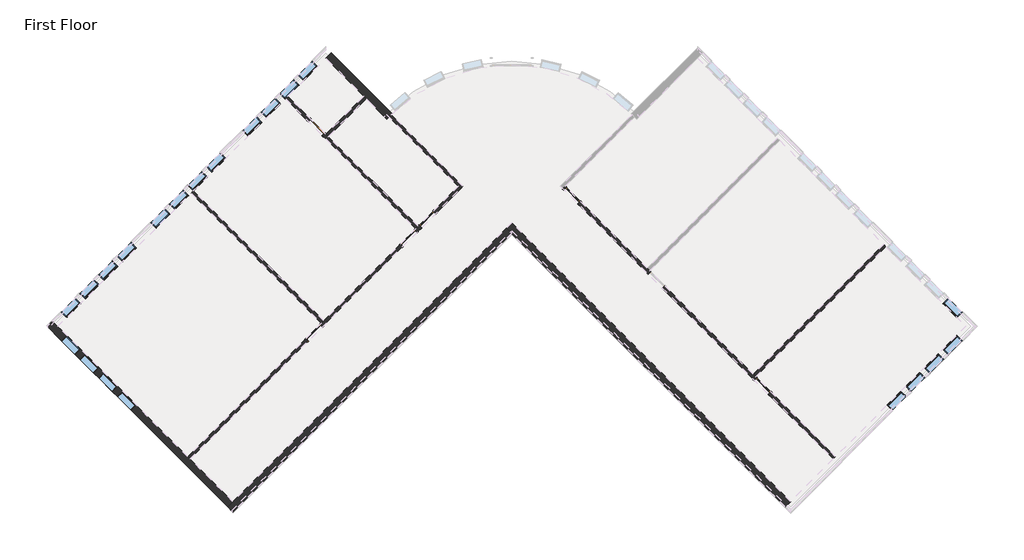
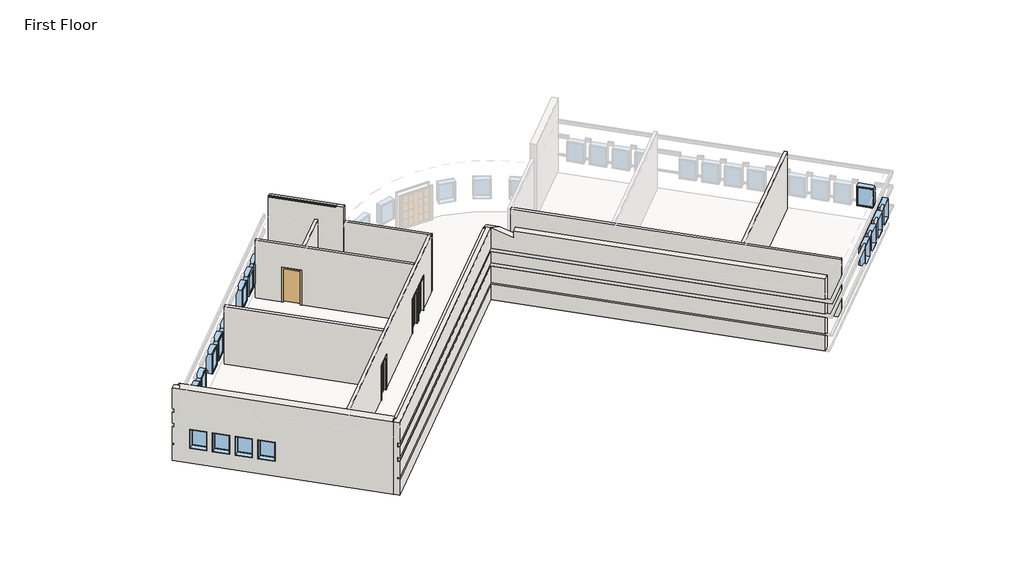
# One storey, part 1 of 3: 21 windows, 11 walls, 6 doors.
"""IFC4 building model written with IfcOpenShell, lengths in millimetres."""

from ifc_helpers import new_model, si_unit, frame, origin, origin_with_axes, place, context, project, spatial, polyline, circle_curve, ellipse_curve, outline, extrude, faceted_brep, transform, mapped, element, save
from ifc_brep_helpers import plane_surface, cylinder_surface, revolved_surface, advanced_brep
from components import door_f9494b7c, door_b81abb0e, door_5f5b55da, window_15c49d37, window_0e2fc6ce

model = new_model("IFC4")

# Units and contexts
model_context = context("Model", 3, world=origin())
ifc_project = project(units=[si_unit("LENGTHUNIT", "METRE", prefix="MILLI")], contexts=[model_context])

# Site, building, storey
site = spatial("IfcSite", under=ifc_project)
building = spatial("IfcBuilding", under=site)
storey = spatial("IfcBuildingStorey", under=building, Name="First Floor", Elevation=0.0)

# Doors
placement = place(None, origin())
door_shape = door_f9494b7c(model_context)
element("IfcDoor", 1, ObjectType="Single-Flush : 36\" x 84\"", at=placement, inside=storey, context=model_context, shape_type="MappedRepresentation", body=[
    mapped(door_shape, transform((-11920.1265343, 7875.9588464, 0.0), x_axis=(0.7071067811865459, -0.7071067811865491, 0.0), y_axis=(0.7071067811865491, 0.7071067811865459, 0.0), z_axis=(0.0, 0.0, 1.0))),
])
door_2_shape = door_b81abb0e(model_context)
element("IfcDoor", 2, ObjectType="Single-Glass 1 : 36\" x 84\"", at=placement, inside=storey, context=model_context, shape_type="MappedRepresentation", body=[
    mapped(door_2_shape, transform((-12027.7718255, -1647.4849877, 0.0), x_axis=(0.7071067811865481, 0.7071067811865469, 0.0), y_axis=(-0.7071067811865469, 0.7071067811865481, 0.0), z_axis=(0.0, 0.0, 1.0))),
])
element("IfcDoor", 3, ObjectType="Single-Glass 1 : 36\" x 84\"", at=placement, inside=storey, context=model_context, shape_type="MappedRepresentation", body=[
    mapped(door_2_shape, transform((-7643.2795567, 2737.0072811, 0.0), x_axis=(0.7071067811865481, 0.7071067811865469, 0.0), y_axis=(-0.7071067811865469, 0.7071067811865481, 0.0), z_axis=(0.0, 0.0, 1.0))),
])
door_3_shape = door_5f5b55da(model_context)
element("IfcDoor", 4, ObjectType="Single-Glass 1 : 36\" x 84\"", at=placement, inside=storey, context=model_context, shape_type="MappedRepresentation", body=[
    mapped(door_3_shape, transform((-6781.1749691, 3599.1118687, 0.0), x_axis=(-0.7071067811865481, -0.7071067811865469, 0.0), y_axis=(0.7071067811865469, -0.7071067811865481, 0.0), z_axis=(0.0, 0.0, 1.0))),
])
element("IfcDoor", 5, ObjectType="Single-Glass 1 : 36\" x 84\"", at=placement, inside=storey, context=model_context, shape_type="MappedRepresentation", body=[
    mapped(door_3_shape, transform((-66.4240191, 4710.6541283, 0.0), x_axis=(-0.7071067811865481, 0.7071067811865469, 0.0), y_axis=(-0.7071067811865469, -0.7071067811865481, 0.0), z_axis=(0.0, 0.0, 1.0))),
])
element("IfcDoor", 6, ObjectType="Single-Glass 1 : 36\" x 84\"", at=placement, inside=storey, context=model_context, shape_type="MappedRepresentation", body=[
    mapped(door_3_shape, transform((8770.3835686, -4126.1534594, 0.0), x_axis=(-0.7071067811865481, 0.7071067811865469, 0.0), y_axis=(-0.7071067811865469, -0.7071067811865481, 0.0), z_axis=(0.0, 0.0, 1.0))),
])

# Walls
element("IfcWall", 7, ObjectType="Exterior - Brick on Mtl. Stud", at=placement, inside=storey, context=model_context, shape_type="Brep", body=[
    faceted_brep([(-23922.2388402, -1357.9895101, 4689.475), (-15799.5971786, -9480.6311716, 4689.475), (-15799.5971786, -9480.6311716, 4639.3965909), (-15819.8027549, -9460.4255953, 4635.5), (-15819.8027549, -9460.4255953, 4572.0), (-15799.5971786, -9480.6311716, 4572.0), (-15799.5971786, -9480.6311716, 0.0), (-17775.2535253, -7504.974825, 0.0), (-17885.2616628, -7394.9666875, 0.0), (-23922.2388402, -1357.9895101, 0.0), (-24038.9821697, -1241.2461805, 0.0), (-24171.4409475, -1108.7874027, 0.0), (-24171.4409475, -1108.7874027, 1016.0), (-24106.3340906, -1173.8942596, 1016.0), (-24106.3340906, -1173.8942596, 1085.85), (-24171.4409475, -1108.7874027, 1085.85), (-24171.4409475, -1108.7874027, 2133.6), (-24106.3340906, -1173.8942596, 2133.6), (-24106.3340906, -1173.8942596, 2336.8), (-24171.4409475, -1108.7874027, 2336.8), (-24171.4409475, -1108.7874027, 3048.0), (-24106.3340906, -1173.8942596, 3048.0), (-24106.3340906, -1173.8942596, 3251.2), (-24171.4409475, -1108.7874027, 3251.2), (-24171.4409475, -1108.7874027, 4572.0), (-23922.2388402, -1357.9895101, 4572.0), (-23902.0332639, -1378.1950864, 4572.0), (-23902.0332639, -1378.1950864, 4635.5), (-23922.2388402, -1357.9895101, 4639.3965909), (-23997.6295387, -1282.5988115, 4653.9354839), (-20921.7107637, -4358.5175865, 2133.6), (-20921.7107637, -4358.5175865, 914.4), (-20275.132323, -5005.0960273, 914.4), (-20275.132323, -5005.0960273, 2133.6), (-21783.8153513, -3496.4129989, 2133.6), (-21783.8153513, -3496.4129989, 914.4), (-21137.2369106, -4142.9914396, 914.4), (-21137.2369106, -4142.9914396, 2133.6), (-22645.9199389, -2634.3084113, 2133.6), (-22645.9199389, -2634.3084113, 914.4), (-21999.3414982, -3280.886852, 914.4), (-21999.3414982, -3280.886852, 2133.6), (-23508.0245266, -1772.2038237, 2133.6), (-23508.0245266, -1772.2038237, 914.4), (-22861.4460859, -2418.7822644, 914.4), (-22861.4460859, -2418.7822644, 2133.6), (-16048.799286, -9729.833279, 0.0), (-16048.799286, -9729.833279, 4572.0), (-16069.0048623, -9709.6277027, 4572.0), (-24151.2353712, -1627.3971937, 4572.0), (-24420.6430549, -1357.9895101, 4572.0), (-24420.6430549, -1357.9895101, 3251.2), (-24355.536198, -1423.096367, 3251.2), (-24355.536198, -1423.096367, 3048.0), (-24420.6430549, -1357.9895101, 3048.0), (-24420.6430549, -1357.9895101, 2336.8), (-24355.536198, -1423.096367, 2336.8), (-24355.536198, -1423.096367, 2133.6), (-24420.6430549, -1357.9895101, 2133.6), (-24420.6430549, -1357.9895101, 1085.85), (-24355.536198, -1423.096367, 1085.85), (-24355.536198, -1423.096367, 1016.0), (-24420.6430549, -1357.9895101, 1016.0), (-24420.6430549, -1357.9895101, 0.0), (-24288.1842771, -1490.4482879, 0.0), (-21170.9128711, -4607.7196939, 914.4), (-21170.9128711, -4607.7196939, 2133.6), (-20524.3344303, -5254.2981346, 2133.6), (-20524.3344303, -5254.2981346, 914.4), (-22033.0174587, -3745.6151063, 914.4), (-22033.0174587, -3745.6151063, 2133.6), (-21386.439018, -4392.193547, 2133.6), (-21386.439018, -4392.193547, 914.4), (-22895.1220463, -2883.5105187, 914.4), (-22895.1220463, -2883.5105187, 2133.6), (-22248.5436056, -3530.0889594, 2133.6), (-22248.5436056, -3530.0889594, 914.4), (-23757.2266339, -2021.405931, 914.4), (-23757.2266339, -2021.405931, 2133.6), (-23110.6481932, -2667.9843718, 2133.6), (-23110.6481932, -2667.9843718, 914.4), (-24288.1842771, -1225.5307323, 0.0), (-15916.3405082, -9597.3745012, 0.0), (-15905.8295266, -9586.8635196, 4639.3965909), (-24073.0202373, -1357.9895101, 4653.9354839), (-24016.5315294, -1492.6933519, 4635.5), (-15934.3010205, -9574.9238609, 4635.5), (-24155.7254993, -1357.9895101, 0.0)], [[[0, 1, 2, 3, 4, 5, 6, 7, 8, 9, 10, 11, 12, 13, 14, 15, 16, 17, 18, 19, 20, 21, 22, 23, 24, 25, 26, 27, 28, 29], [30, 31, 32, 33], [34, 35, 36, 37], [38, 39, 40, 41], [42, 43, 44, 45]], [[46, 47, 48, 49, 50, 51, 52, 53, 54, 55, 56, 57, 58, 59, 60, 61, 62, 63, 64], [65, 66, 67, 68], [69, 70, 71, 72], [73, 74, 75, 76], [77, 78, 79, 80]], [[81, 63, 62, 12, 11]], [[15, 59, 58, 16]], [[19, 55, 54, 20]], [[24, 23, 51, 50]], [[47, 46, 82, 6, 5]], [[2, 1, 83]], [[1, 0, 84, 85, 49, 48, 86, 83]], [[0, 29, 84]], [[46, 64, 87, 82]], [[11, 10, 87, 81]], [[64, 63, 81, 87]], [[10, 9, 8, 7, 6, 82, 87]], [[31, 30, 66, 65]], [[32, 31, 65, 68]], [[33, 32, 68, 67]], [[30, 33, 67, 66]], [[35, 34, 70, 69]], [[36, 35, 69, 72]], [[37, 36, 72, 71]], [[34, 37, 71, 70]], [[39, 38, 74, 73]], [[40, 39, 73, 76]], [[41, 40, 76, 75]], [[38, 41, 75, 74]], [[43, 42, 78, 77]], [[44, 43, 77, 80]], [[45, 44, 80, 79]], [[42, 45, 79, 78]], [[86, 3, 2, 83]], [[4, 48, 47, 5]], [[3, 86, 48, 4]], [[14, 60, 59, 15]], [[61, 13, 12, 62]], [[60, 14, 13, 61]], [[57, 17, 16, 58]], [[17, 57, 56, 18]], [[18, 56, 55, 19]], [[53, 21, 20, 54]], [[21, 53, 52, 22]], [[22, 52, 51, 23]], [[27, 85, 84, 29, 28]], [[49, 26, 25, 24, 50]], [[85, 27, 26, 49]]]),
])
element("IfcWall", 8, ObjectType="Exterior - Split Face and CMU on Mtl. Stud", at=placement, inside=storey, context=model_context, shape_type="Brep", body=[
    faceted_brep([(10063.54045, -9480.6311716, 0.0), (-2868.0283643, 3450.9376427, 0.0), (-2868.0283643, 3450.9376427, 4454.525), (-2369.6241496, 2952.533428, 4454.525), (-1756.7216693, 2339.6309478, 4165.6), (-1756.7216693, 2339.6309478, 4572.0), (10063.54045, -9480.6311716, 4572.0), (-3117.2304717, 3201.7355354, 4572.0), (-3117.2304717, 3201.7355354, 0.0), (-2868.0283643, 2952.533428, 0.0), (9814.3383427, -9729.833279, 0.0), (9814.3383427, -9729.833279, 1016.0), (-2868.0283643, 2952.533428, 1016.0), (-2933.1352212, 3017.6402849, 1016.0), (-2933.1352212, 3017.6402849, 1085.85), (-2868.0283643, 2952.533428, 1085.85), (9814.3383427, -9729.833279, 1085.85), (9814.3383427, -9729.833279, 2133.6), (-2868.0283643, 2952.533428, 2133.6), (-2933.1352212, 3017.6402849, 2133.6), (-2933.1352212, 3017.6402849, 2336.8), (-2868.0283643, 2952.533428, 2336.8), (9814.3383427, -9729.833279, 2336.8), (9814.3383427, -9729.833279, 3048.0), (-2868.0283643, 2952.533428, 3048.0), (-2933.1352212, 3017.6402849, 3048.0), (-2933.1352212, 3017.6402849, 3251.2), (-2868.0283643, 2952.533428, 3251.2), (9814.3383427, -9729.833279, 3251.2), (9814.3383427, -9729.833279, 4572.0), (-2005.9237767, 2090.4288404, 4572.0), (-2005.9237767, 2090.4288404, 4165.6), (-2868.0283643, 2952.533428, 4572.0), (9879.4451996, -9664.7264221, 3251.2), (9879.4451996, -9664.7264221, 3048.0), (9879.4451996, -9664.7264221, 2336.8), (9879.4451996, -9664.7264221, 2133.6), (9879.4451996, -9664.7264221, 1085.85), (9879.4451996, -9664.7264221, 1016.0), (9879.4451996, -9664.7264221, 0.0), (-3052.1236148, 3266.8423923, 0.0), (-2868.0283643, 3082.7471418, 1085.85), (-2868.0283643, 3082.7471418, 1016.0), (-2868.0283643, 3082.7471418, 2133.6), (-2868.0283643, 3082.7471418, 2336.8), (-2868.0283643, 3082.7471418, 3048.0), (-2868.0283643, 3082.7471418, 3251.2)], [[[0, 1, 2, 3, 4, 5, 6]], [[7, 8, 9, 10, 11, 12, 13, 14, 15, 16, 17, 18, 19, 20, 21, 22, 23, 24, 25, 26, 27, 28, 29, 30, 31, 32]], [[0, 6, 29, 28, 33, 34, 23, 22, 35, 36, 17, 16, 37, 38, 11, 10, 39]], [[2, 1, 40, 8, 7]], [[29, 6, 5, 30]], [[30, 5, 4, 31]], [[31, 4, 3, 32]], [[2, 7, 32, 3]], [[1, 0, 39, 40]], [[39, 10, 9, 8, 40]], [[14, 41, 37, 16, 15]], [[38, 42, 13, 12, 11]], [[41, 42, 38, 37]], [[42, 41, 14, 13]], [[36, 43, 19, 18, 17]], [[20, 44, 35, 22, 21]], [[44, 43, 36, 35]], [[43, 44, 20, 19]], [[34, 45, 25, 24, 23]], [[26, 46, 33, 28, 27]], [[46, 45, 34, 33]], [[45, 46, 26, 25]]]),
])
element("IfcWall", 9, ObjectType="Exterior - Split Face and CMU on Mtl. Stud", at=placement, inside=storey, context=model_context, shape_type="Brep", body=[
    faceted_brep([(-3117.2304717, 3201.7355354, 0.0), (-15799.5971786, -9480.6311716, 0.0), (-16048.799286, -9729.833279, 0.0), (-16048.799286, -9729.833279, 4572.0), (-15799.5971786, -9480.6311716, 4572.0), (-3135.1909839, 3183.7750231, 4572.0), (-3117.2304717, 3201.7355354, 4572.0), (-15799.5971786, -9979.0353863, 0.0), (-2868.0283643, 2952.533428, 0.0), (-2868.0283643, 2952.533428, 1016.0), (-15799.5971786, -9979.0353863, 1016.0), (-15799.5971786, -9979.0353863, 1085.85), (-2868.0283643, 2952.533428, 1085.85), (-2868.0283643, 2952.533428, 2133.6), (-15799.5971786, -9979.0353863, 2133.6), (-15799.5971786, -9979.0353863, 2336.8), (-2868.0283643, 2952.533428, 2336.8), (-2868.0283643, 2952.533428, 3048.0), (-15799.5971786, -9979.0353863, 3048.0), (-15799.5971786, -9979.0353863, 4572.0), (-15799.5971786, -9979.0353863, 3251.2), (-2868.0283643, 2952.533428, 3251.2), (-2868.0283643, 2952.533428, 4572.0), (-2885.9888765, 2934.5729158, 4572.0), (-15864.7040355, -9913.9285294, 0.0), (-15864.7040355, -9913.9285294, 1016.0), (-15864.7040355, -9913.9285294, 1085.85), (-15864.7040355, -9913.9285294, 2133.6), (-15864.7040355, -9913.9285294, 2336.8), (-15864.7040355, -9913.9285294, 3048.0), (-15864.7040355, -9913.9285294, 3251.2), (-2933.1352212, 3017.6402849, 3251.2), (-2933.1352212, 3017.6402849, 3048.0), (-2933.1352212, 3017.6402849, 2336.8), (-2933.1352212, 3017.6402849, 2133.6), (-2933.1352212, 3017.6402849, 1085.85), (-2933.1352212, 3017.6402849, 1016.0), (-2933.1352212, 3017.6402849, 0.0)], [[[0, 1, 2, 3, 4, 5, 6]], [[7, 8, 9, 10]], [[11, 12, 13, 14]], [[15, 16, 17, 18]], [[19, 20, 21, 22, 23]], [[3, 2, 24, 7, 10, 25, 26, 11, 14, 27, 28, 15, 18, 29, 30, 20, 19]], [[0, 6, 22, 21, 31, 32, 17, 16, 33, 34, 13, 12, 35, 36, 9, 8, 37]], [[2, 1, 0, 37, 24]], [[37, 8, 7, 24]], [[26, 35, 12, 11]], [[36, 25, 10, 9]], [[25, 36, 35, 26]], [[34, 27, 14, 13]], [[28, 33, 16, 15]], [[27, 34, 33, 28]], [[32, 29, 18, 17]], [[30, 31, 21, 20]], [[29, 32, 31, 30]], [[3, 19, 23, 22, 6, 5, 4]]]),
    faceted_brep([(-15799.5971786, -9480.6311716, 4689.475), (-3366.432579, 2952.533428, 4689.475), (-3260.200231, 3058.765776, 4639.3965909), (-15799.5971786, -9480.6311716, 4639.3965909), (-15905.8295266, -9586.8635196, 4639.3965909), (-3215.6511819, 2952.533428, 4653.9354839), (-15799.5971786, -9631.4125687, 4653.9354839)], [[[0, 1, 2, 3, 4]], [[2, 1, 5]], [[1, 0, 6, 5]], [[0, 4, 6]], [[4, 3, 2, 5, 6]]]),
])
element("IfcWall", 10, ObjectType="Exterior - Split Face and CMU on Mtl. Stud", at=placement, inside=storey, context=model_context, shape_type="AdvancedBrep", body=[
    advanced_brep(
    [(-11489.0742405, 11075.1750895, 0.0), (-9728.9440408, 9315.0448898, 0.0), (-9618.9359033, 9205.0367523, 0.0), (-8658.0122729, 8244.1131219, 0.0), (-8658.0122729, 8244.1131219, 4689.475), (-11489.0742405, 11075.1750895, 4689.475), (-11489.0742405, 11075.1750895, 4639.3965909), (-8911.6883314, 8497.7891804, 4639.3965909), (-8911.6883314, 8497.7891804, 4572.0), (-11489.0742405, 11075.1750895, 4572.0), (-8413.2817722, 8497.7868359, 4572.0), (-8413.2817722, 8497.7868359, 0.0), (-8662.486224, 8746.9912878, 0.0), (-11239.8721332, 11324.3771969, 0.0), (-11239.8721332, 11324.3771969, 1016.0), (-8662.486224, 8746.9912878, 1016.0), (-8597.3787742, 8681.8838379, 1016.0), (-8597.3787742, 8681.8838379, 1085.85), (-8662.486224, 8746.9912878, 1085.85), (-11239.8721332, 11324.3771969, 1085.85), (-11239.8721332, 11324.3771969, 2133.6), (-8662.486224, 8746.9912878, 2133.6), (-8597.3787742, 8681.8838379, 2133.6), (-8597.3787742, 8681.8838379, 2336.8), (-8662.486224, 8746.9912878, 2336.8), (-11239.8721332, 11324.3771969, 2336.8), (-11239.8721332, 11324.3771969, 3048.0), (-8662.486224, 8746.9912878, 3048.0), (-8597.3787742, 8681.8838379, 3048.0), (-8597.3787742, 8681.8838379, 3251.2), (-8662.486224, 8746.9912878, 3251.2), (-11239.8721332, 11324.3771969, 3251.2), (-11239.8721332, 11324.3771969, 4572.0), (-8662.486224, 8746.9912878, 4572.0), (-8557.713594, 8350.8358404, 0.0), (-8478.2967797, 8432.5881297, 0.0), (-8449.0111375, 8462.1452813, 0.0), (-11304.9789901, 11259.27034, 0.0), (-11304.9789901, 11259.27034, 3251.2), (-11304.9789901, 11259.27034, 3048.0), (-11304.9789901, 11259.27034, 2336.8), (-11304.9789901, 11259.27034, 2133.6), (-11304.9789901, 11259.27034, 1085.85), (-11304.9789901, 11259.27034, 1016.0), (-11413.683542, 11150.5657881, 4653.9354839), (-8836.2976328, 8573.179879, 4653.9354839), (-8662.3967205, 8616.6880705, 1085.85), (-8662.3967205, 8616.6880705, 1016.0), (-8662.3967205, 8616.6880705, 2336.8), (-8662.3967205, 8616.6880705, 2133.6), (-8662.3967205, 8616.6880705, 3251.2), (-8662.3967205, 8616.6880705, 3048.0)],
    [
        (0, 1),
        (1, 2),
        (2, 3),
        (3, 4),
        (4, 5),
        (5, 6),
        (6, 7),
        (7, 8),
        (8, 9),
        (9, 0),
        (10, 11),
        (11, 12),
        (12, 13),
        (13, 14),
        (14, 15),
        (15, 16),
        (16, 17),
        (17, 18),
        (18, 19),
        (19, 20),
        (20, 21),
        (21, 22),
        (22, 23),
        (23, 24),
        (24, 25),
        (25, 26),
        (26, 27),
        (27, 28),
        (28, 29),
        (29, 30),
        (30, 31),
        (31, 32),
        (32, 33),
        (33, 10),
        (3, 34, circle_curve(frame((-2868.0283643, 2903.1420194, 0.0), z_axis=(0.0, 0.0, -1.0), x_axis=(1.0, 0.0, 0.0)), 7877.175)),
        (34, 35, circle_curve(frame((-2868.0283643, 2903.1420194, 0.0), z_axis=(0.0, 0.0, -1.0), x_axis=(1.0, 0.0, 0.0)), 7877.175)),
        (35, 36, circle_curve(frame((-2868.0283643, 2903.1420194, 0.0), z_axis=(0.0, 0.0, -1.0), x_axis=(1.0, 0.0, 0.0)), 7877.175)),
        (36, 11, circle_curve(frame((-2868.0283643, 2903.1420194, 0.0), z_axis=(0.0, 0.0, -1.0), x_axis=(1.0, 0.0, 0.0)), 7877.175)),
        (10, 4, ellipse_curve(frame((-2868.0283643, 2903.1420194, 4583.6416667), z_axis=(0.2236067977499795, 0.22360679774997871, 0.9486832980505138), x_axis=(0.6708203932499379, 0.6708203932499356, -0.31622776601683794)), 8303.2715092, 7877.175)),
        (37, 0),
        (9, 32),
        (31, 38),
        (38, 39),
        (39, 26),
        (25, 40),
        (40, 41),
        (41, 20),
        (19, 42),
        (42, 43),
        (43, 14),
        (13, 37),
        (5, 44),
        (44, 6),
        (33, 45),
        (45, 44),
        (37, 35),
        (46, 47),
        (47, 43),
        (42, 46),
        (17, 46, circle_curve(frame((-2868.0283643, 2903.1420194, 1085.85), z_axis=(0.0, 0.0, 1.0), x_axis=(-0.7040995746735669, 0.7101012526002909, 0.0)), 8137.525)),
        (47, 16, circle_curve(frame((-2868.0283643, 2903.1420194, 1016.0), z_axis=(0.0, 0.0, -1.0), x_axis=(-0.7040995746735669, 0.7101012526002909, 0.0)), 8137.525)),
        (48, 49),
        (49, 41),
        (40, 48),
        (49, 22, circle_curve(frame((-2868.0283643, 2903.1420194, 2133.6), z_axis=(0.0, 0.0, -1.0), x_axis=(-0.7120553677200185, 0.70212331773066, 0.0)), 8137.525)),
        (48, 23, circle_curve(frame((-2868.0283643, 2903.1420194, 2336.8), z_axis=(0.0, 0.0, -1.0), x_axis=(-0.7120553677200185, 0.70212331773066, 0.0)), 8137.525)),
        (50, 51),
        (51, 39),
        (38, 50),
        (51, 28, circle_curve(frame((-2868.0283643, 2903.1420194, 3048.0), z_axis=(0.0, 0.0, -1.0), x_axis=(-0.7120553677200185, 0.70212331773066, 0.0)), 8137.525)),
        (50, 29, circle_curve(frame((-2868.0283643, 2903.1420194, 3251.2), z_axis=(0.0, 0.0, -1.0), x_axis=(-0.7120553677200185, 0.70212331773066, 0.0)), 8137.525)),
        (8, 33),
        (7, 45),
    ],
    [
        plane_surface(frame((-11738.2763479, 11324.3771969, 0.0), z_axis=(-0.7071067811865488, -0.7071067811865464, 0.0), x_axis=(0.7071067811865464, -0.7071067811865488, 0.0))),
        plane_surface(frame((-11489.0742405, 11573.5793042, 0.0), z_axis=(0.7071067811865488, 0.7071067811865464, 0.0), x_axis=(-0.7071067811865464, 0.7071067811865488, 0.0))),
        revolved_surface(polyline([(5009.146635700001, 2903.1420194, 0.0), (5009.146635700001, 2903.1420194, 7209.366666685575)]), (-2868.0283643, 2903.1420194, 0.0), (0.0, 0.0, -1.0)),
        plane_surface(frame((-24171.4409475, -1607.1916175, 0.0), z_axis=(-0.7071067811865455, 0.7071067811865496, 0.0), x_axis=(0.7071067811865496, 0.7071067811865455, 0.0))),
        plane_surface(frame((-1143.8191891, 2952.533428, 4165.6), z_axis=(0.2236067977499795, 0.22360679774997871, 0.9486832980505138), x_axis=(-0.7071067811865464, 0.7071067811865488, 0.0))),
        plane_surface(frame((-11613.6752942, 11199.7761432, 0.0), z_axis=(0.0, 0.0, -1.0000000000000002), x_axis=(0.7071067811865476, 0.7071067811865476, 0.0))),
        plane_surface(frame((0.0, 0.0, 0.0), z_axis=(0.0, 0.0, -1.0), x_axis=(1.0, 0.0, 0.0))),
        plane_surface(frame((-11489.0742405, 11443.3655905, 1016.0), z_axis=(0.7071067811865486, 0.7071067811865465, 0.0), x_axis=(0.7071067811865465, -0.7071067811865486, 0.0))),
        plane_surface(frame((-2868.0283643, 2903.1420194, 1085.85), z_axis=(0.0, 0.0, -1.0), x_axis=(-0.7040995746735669, 0.7101012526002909, 0.0))),
        plane_surface(frame((-2868.0283643, 2903.1420194, 1016.0), z_axis=(0.0, 0.0, 1.0), x_axis=(-0.7040995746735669, 0.7101012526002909, 0.0))),
        cylinder_surface(frame((-2868.0283643, 2903.1420194, 1016.0), z_axis=(0.0, 0.0, -1.0), x_axis=(-0.7040995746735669, 0.7101012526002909, 0.0)), 8137.525),
        plane_surface(frame((-11489.0742405, 11443.3655905, 2133.6), z_axis=(0.7071067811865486, 0.7071067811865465, 0.0), x_axis=(0.7071067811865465, -0.7071067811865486, 0.0))),
        plane_surface(frame((-2868.0283643, 2903.1420194, 2133.6), z_axis=(0.0, 0.0, 1.0), x_axis=(-0.7120553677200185, 0.70212331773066, 0.0))),
        cylinder_surface(frame((-2868.0283643, 2903.1420194, 2133.6), z_axis=(0.0, 0.0, -1.0), x_axis=(-0.7120553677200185, 0.70212331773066, 0.0)), 8137.525),
        plane_surface(frame((-2868.0283643, 2903.1420194, 2336.8), z_axis=(0.0, 0.0, -1.0), x_axis=(-0.7120553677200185, 0.70212331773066, 0.0))),
        plane_surface(frame((-11489.0742405, 11443.3655905, 3048.0), z_axis=(0.7071067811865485, 0.7071067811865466, 0.0), x_axis=(0.7071067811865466, -0.7071067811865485, 0.0))),
        plane_surface(frame((-2868.0283643, 2903.1420194, 3048.0), z_axis=(0.0, 0.0, 1.0), x_axis=(-0.7120553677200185, 0.70212331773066, 0.0))),
        cylinder_surface(frame((-2868.0283643, 2903.1420194, 3048.0), z_axis=(0.0, 0.0, -1.0), x_axis=(-0.7120553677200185, 0.70212331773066, 0.0)), 8137.525),
        plane_surface(frame((-2868.0283643, 2903.1420194, 3251.2), z_axis=(0.0, 0.0, -1.0), x_axis=(-0.7120553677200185, 0.70212331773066, 0.0))),
        plane_surface(frame((-24438.6035671, -1340.0289979, 4572.0), z_axis=(0.0, 0.0, 1.0), x_axis=(0.7071067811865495, 0.7071067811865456, 0.0))),
        plane_surface(frame((-8662.486224, 8746.9912878, 4185.7445793), z_axis=(-0.7071067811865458, 0.7071067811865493, 0.0), x_axis=(0.7071067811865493, 0.7071067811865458, 0.0))),
        plane_surface(frame((-11489.0742405, 11034.763937, 4635.5), z_axis=(0.09553946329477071, 0.09553946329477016, -0.9908301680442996), x_axis=(0.7071067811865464, -0.7071067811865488, 0.0))),
    ],
    [
        (0, [[1, 2, 3, 4, 5, 6, 7, 8, 9, 10]]),
        (1, [[11, 12, 13, 14, 15, 16, 17, 18, 19, 20, 21, 22, 23, 24, 25, 26, 27, 28, 29, 30, 31, 32, 33, 34]]),
        (2, [[-4, 35, 36, 37, 38, -11, 39]]),
        (3, [[40, -10, 41, -32, 42, 43, 44, -26, 45, 46, 47, -20, 48, 49, 50, -14, 51]]),
        (3, [[-6, 52, 53]]),
        (4, [[-5, -39, -34, 54, 55, -52]]),
        (5, [[-3, -2, -1, -40, 56, -36, -35]]),
        (6, [[-51, -13, -12, -38, -37, -56]]),
        (7, [[57, 58, -49, 59]]),
        (8, [[60, -59, -48, -19, -18]]),
        (9, [[-58, 61, -16, -15, -50]]),
        (10, [[-57, -60, -17, -61]]),
        (11, [[62, 63, -46, 64]]),
        (12, [[-63, 65, -22, -21, -47]]),
        (13, [[-62, 66, -23, -65]]),
        (14, [[-66, -64, -45, -25, -24]]),
        (15, [[67, 68, -43, 69]]),
        (16, [[-68, 70, -28, -27, -44]]),
        (17, [[-67, 71, -29, -70]]),
        (18, [[-71, -69, -42, -31, -30]]),
        (19, [[72, -33, -41, -9]]),
        (20, [[73, -54, -72, -8]]),
        (21, [[-73, -7, -53, -55]]),
    ],
),
])
element("IfcWall", 11, ObjectType="Interior - 6 1/8\" Partition (2-hr)", at=placement, inside=storey, context=model_context, shape_type="Brep", body=[
    faceted_brep([(-7264.9862676, 3005.2924327, 0.0), (-7049.4601207, 3220.8185796, 0.0), (-7049.4601207, 3220.8185796, 2133.6), (-6402.88168, 3867.3970204, 2133.6), (-6402.88168, 3867.3970204, 0.0), (-5238.5804157, 5031.6982846, 0.0), (-5238.5804157, 5031.6982846, 3657.6), (-17775.2535253, -7504.974825, 3657.6), (-17775.2535253, -7504.974825, 0.0), (-12296.0569771, -2025.7782768, 0.0), (-12296.0569771, -2025.7782768, 2133.6), (-11649.4785364, -1379.1998361, 2133.6), (-11649.4785364, -1379.1998361, 0.0), (-7911.5647083, 2358.713992, 0.0), (-7911.5647083, 2358.713992, 2133.6), (-7264.9862676, 3005.2924327, 2133.6), (-7159.4682582, 3330.8267171, 2133.6), (-7159.4682582, 3330.8267171, 0.0), (-7212.2272629, 3278.0677124, 0.0), (-7322.2354004, 3168.0595749, 0.0), (-7374.9944051, 3115.3005702, 0.0), (-7374.9944051, 3115.3005702, 2133.6), (-8021.5728458, 2468.7221295, 2133.6), (-8021.5728458, 2468.7221295, 0.0), (-11596.7195317, -1106.4245564, 0.0), (-11706.7276692, -1216.4326939, 0.0), (-11759.4866739, -1269.1916986, 0.0), (-11759.4866739, -1269.1916986, 2133.6), (-12406.0651146, -1915.7701393, 2133.6), (-12406.0651146, -1915.7701393, 0.0), (-17885.2616628, -7394.9666875, 0.0), (-17885.2616628, -7394.9666875, 3657.6), (-11706.7276692, -1216.4326939, 3657.6), (-11596.7195317, -1106.4245564, 3657.6), (-7322.2354004, 3168.0595749, 3657.6), (-7212.2272629, 3278.0677124, 3657.6), (-5348.5885532, 5141.7064221, 3657.6), (-5348.5885532, 5141.7064221, 0.0), (-6512.8898174, 3977.4051578, 0.0), (-6512.8898174, 3977.4051578, 2133.6)], [[[0, 1, 2, 3, 4, 5, 6, 7, 8, 9, 10, 11, 12, 13, 14, 15]], [[16, 17, 18, 19, 20, 21, 22, 23, 24, 25, 26, 27, 28, 29, 30, 31, 32, 33, 34, 35, 36, 37, 38, 39]], [[20, 19, 18, 17, 1, 0]], [[9, 8, 30, 29]], [[13, 12, 26, 25, 24, 23]], [[38, 37, 5, 4]], [[7, 6, 36, 35, 34, 33, 32, 31]], [[8, 7, 31, 30]], [[6, 5, 37, 36]], [[27, 26, 12, 11]], [[28, 27, 11, 10]], [[29, 28, 10, 9]], [[21, 20, 0, 15]], [[22, 21, 15, 14]], [[23, 22, 14, 13]], [[2, 1, 17, 16]], [[3, 2, 16, 39]], [[4, 3, 39, 38]]]),
])
element("IfcWall", 12, ObjectType="Interior - 6 1/8\" Partition (2-hr)", at=placement, inside=storey, context=model_context, shape_type="Brep", body=[
    faceted_brep([(-7212.2272629, 3278.0677124, 0.0), (-11379.066103, 7444.9065526, 0.0), (-11489.0742405, 7554.9146901, 0.0), (-11541.8332452, 7607.6736948, 0.0), (-11541.8332452, 7607.6736948, 2133.6), (-12188.411686, 8254.2521355, 2133.6), (-12188.411686, 8254.2521355, 0.0), (-13249.2044403, 9315.0448898, 0.0), (-13249.2044403, 9315.0448898, 3657.6), (-11489.0742405, 7554.9146901, 3657.6), (-11379.066103, 7444.9065526, 3657.6), (-7212.2272629, 3278.0677124, 3657.6), (-11651.8413827, 7497.6655573, 2133.6), (-11651.8413827, 7497.6655573, 0.0), (-7322.2354004, 3168.0595749, 0.0), (-7322.2354004, 3168.0595749, 3657.6), (-13359.2125777, 9205.0367523, 3657.6), (-13359.2125777, 9205.0367523, 0.0), (-12298.4198234, 8144.243998, 0.0), (-12298.4198234, 8144.243998, 2133.6)], [[[0, 1, 2, 3, 4, 5, 6, 7, 8, 9, 10, 11]], [[12, 13, 14, 15, 16, 17, 18, 19]], [[14, 13, 3, 2, 1, 0]], [[18, 17, 7, 6]], [[11, 10, 9, 8, 16, 15]], [[8, 7, 17, 16]], [[0, 11, 15, 14]], [[4, 3, 13, 12]], [[5, 4, 12, 19]], [[6, 5, 19, 18]]]),
])
element("IfcWall", 13, ObjectType="Interior - 6 1/8\" Partition (2-hr)", at=placement, inside=storey, context=model_context, shape_type="AdvancedBrep", body=[
    advanced_brep(
    [(-5128.5722782, 5141.7064221, 0.0), (-8449.0111375, 8462.1452813, 0.0), (-8449.0111375, 8462.1452813, 3657.6), (-5128.5722782, 5141.7064221, 3657.6), (-5238.5804157, 5031.6982846, 0.0), (-5238.5804157, 5031.6982846, 3657.6), (-5348.5885532, 5141.7064221, 3657.6), (-8557.7157352, 8350.8336041, 3657.6), (-8557.7157352, 8350.8336041, 0.0), (-5348.5885532, 5141.7064221, 0.0)],
    [
        (0, 1),
        (1, 2),
        (2, 3),
        (3, 0),
        (4, 5),
        (5, 6),
        (6, 7),
        (7, 8),
        (8, 9),
        (9, 4),
        (0, 4),
        (8, 1, circle_curve(frame((-2868.0283643, 2903.1420194, 0.0), z_axis=(0.0, 0.0, -1.0), x_axis=(1.0, 0.0, 0.0)), 7877.175)),
        (2, 7, circle_curve(frame((-2868.0283643, 2903.1420194, 3657.6), z_axis=(0.0, 0.0, 1.0), x_axis=(1.0, 0.0, 0.0)), 7877.175)),
        (5, 3),
    ],
    [
        plane_surface(frame((-5183.576347, 5196.7104908, 0.0), z_axis=(0.7071067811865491, 0.7071067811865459, 0.0), x_axis=(-0.7071067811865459, 0.7071067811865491, 0.0))),
        plane_surface(frame((-5293.5844845, 5086.7023533, 0.0), z_axis=(-0.7071067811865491, -0.7071067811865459, 0.0), x_axis=(0.7071067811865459, -0.7071067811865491, 0.0))),
        plane_surface(frame((-5183.576347, 5196.7104908, 0.0), z_axis=(0.0, 0.0, -1.0), x_axis=(-0.707106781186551, -0.7071067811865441, 0.0))),
        plane_surface(frame((-8573.2406241, 8586.374768, 3657.6), z_axis=(0.0, 0.0, 1.0), x_axis=(-0.707106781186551, -0.7071067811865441, 0.0))),
        plane_surface(frame((-17899.854579, -7629.5758786, 0.0), z_axis=(0.7071067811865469, -0.7071067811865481, 0.0), x_axis=(0.7071067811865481, 0.7071067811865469, 0.0))),
        cylinder_surface(frame((-2868.0283643, 2903.1420194, 0.0), z_axis=(0.0, 0.0, -1.0), x_axis=(1.0, 0.0, 0.0)), 7877.175),
    ],
    [
        (0, [[1, 2, 3, 4]]),
        (1, [[5, 6, 7, 8, 9, 10]]),
        (2, [[-1, 11, -10, -9, 12]]),
        (3, [[-3, 13, -7, -6, 14]]),
        (4, [[-4, -14, -5, -11]]),
        (5, [[-2, -12, -8, -13]]),
    ],
),
])
element("IfcWall", 14, ObjectType="Interior - 6 1/8\" Partition (2-hr)", at=placement, inside=storey, context=model_context, shape_type="SweptSolid", body=[
    extrude(outline(polyline([(-11489.0742405, 7554.9146901), (-9728.9440408, 9315.0448898), (-9618.9359033, 9205.0367523), (-11379.066103, 7444.9065526), (-11489.0742405, 7554.9146901)])), origin_with_axes(), (0.0, 0.0, 1.0), 3657.6),
])
element("IfcWall", 15, ObjectType="Interior - 6 1/8\" Partition (2-hr)", at=placement, inside=storey, context=model_context, shape_type="SweptSolid", body=[
    extrude(outline(polyline([(-17633.6967091, 4930.552621), (-11596.7195317, -1106.4245564), (-11706.7276692, -1216.4326939), (-17743.7048466, 4820.5444835), (-17633.6967091, 4930.552621)])), origin_with_axes(), (0.0, 0.0, 1.0), 3657.6),
])
element("IfcWall", 16, ObjectType="Interior - 6 1/8\" Partition (2-hr)", at=placement, inside=storey, context=model_context, shape_type="Brep", body=[
    faceted_brep([(8502.098417, -3747.8601703, 2133.6), (8502.098417, -3747.8601703, 0.0), (8449.3394123, -3695.1011656, 0.0), (8339.3312748, -3585.0930281, 0.0), (4225.2514393, 528.9868073, 0.0), (4225.2514393, 528.9868073, 2133.6), (3578.6729986, 1175.5652481, 2133.6), (3578.6729986, 1175.5652481, 0.0), (3525.9139939, 1228.3242528, 0.0), (3415.9058564, 1338.3323903, 0.0), (311.86927, 4442.3689766, 0.0), (311.86927, 4442.3689766, 2133.6), (-334.7091707, 5088.9474174, 2133.6), (-334.7091707, 5088.9474174, 0.0), (-387.4681754, 5141.7064221, 0.0), (-387.4681754, 5141.7064221, 3657.6), (3415.9058564, 1338.3323903, 3657.6), (3525.9139939, 1228.3242528, 3657.6), (8339.3312748, -3585.0930281, 3657.6), (8449.3394123, -3695.1011656, 3657.6), (12149.2049342, -7394.9666875, 3657.6), (12149.2049342, -7394.9666875, 0.0), (9148.6768577, -4394.438611, 0.0), (9148.6768577, -4394.438611, 2133.6), (4115.2433018, 418.9786699, 0.0), (8392.0902795, -3857.8683078, 0.0), (8392.0902795, -3857.8683078, 2133.6), (9038.6687202, -4504.4467485, 2133.6), (9038.6687202, -4504.4467485, 0.0), (12039.1967967, -7504.974825, 0.0), (12039.1967967, -7504.974825, 3657.6), (-497.4763129, 5031.6982846, 3657.6), (-497.4763129, 5031.6982846, 0.0), (-444.7173082, 4978.9392799, 0.0), (-444.7173082, 4978.9392799, 2133.6), (201.8611325, 4332.3608392, 2133.6), (201.8611325, 4332.3608392, 0.0), (3468.6648611, 1065.5571106, 0.0), (3468.6648611, 1065.5571106, 2133.6), (4115.2433018, 418.9786699, 2133.6)], [[[0, 1, 2, 3, 4, 5, 6, 7, 8, 9, 10, 11, 12, 13, 14, 15, 16, 17, 18, 19, 20, 21, 22, 23]], [[24, 25, 26, 27, 28, 29, 30, 31, 32, 33, 34, 35, 36, 37, 38, 39]], [[14, 13, 33, 32]], [[10, 9, 8, 7, 37, 36]], [[4, 3, 2, 1, 25, 24]], [[22, 21, 29, 28]], [[20, 19, 18, 17, 16, 15, 31, 30]], [[15, 14, 32, 31]], [[21, 20, 30, 29]], [[34, 33, 13, 12]], [[35, 34, 12, 11]], [[36, 35, 11, 10]], [[38, 37, 7, 6]], [[39, 38, 6, 5]], [[24, 39, 5, 4]], [[26, 25, 1, 0]], [[27, 26, 0, 23]], [[28, 27, 23, 22]]]),
])
element("IfcWall", 17, ObjectType="Interior - 6 1/8\" Partition (2-hr)", at=placement, inside=storey, context=model_context, shape_type="SweptSolid", body=[
    extrude(outline(polyline([(8339.3312748, -3585.0930281), (14376.3084522, 2451.8841493), (14486.3165897, 2341.8760118), (8449.3394123, -3695.1011656), (8339.3312748, -3585.0930281)])), origin_with_axes(), (0.0, 0.0, 1.0), 3657.6),
])

# Windows
window_shape = window_15c49d37(model_context)
element("IfcWindow", 18, ObjectType="Fixed : 36\" x 48\"", at=placement, inside=storey, context=model_context, shape_type="MappedRepresentation", body=[
    mapped(window_shape, transform((-23336.2771283, -522.8256908, 0.0), x_axis=(-0.7071067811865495, -0.7071067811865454, 0.0), y_axis=(0.7071067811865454, -0.7071067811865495, 0.0), z_axis=(0.0, 0.0, 1.0))),
])
element("IfcWindow", 19, ObjectType="Fixed : 36\" x 48\"", at=placement, inside=storey, context=model_context, shape_type="MappedRepresentation", body=[
    mapped(window_shape, transform((-22474.1725406, 339.2788968, 0.0), x_axis=(-0.7071067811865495, -0.7071067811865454, 0.0), y_axis=(0.7071067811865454, -0.7071067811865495, 0.0), z_axis=(0.0, 0.0, 1.0))),
])
element("IfcWindow", 20, ObjectType="Fixed : 36\" x 48\"", at=placement, inside=storey, context=model_context, shape_type="MappedRepresentation", body=[
    mapped(window_shape, transform((-21612.067953, 1201.3834844, 0.0), x_axis=(-0.7071067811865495, -0.7071067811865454, 0.0), y_axis=(0.7071067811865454, -0.7071067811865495, 0.0), z_axis=(0.0, 0.0, 1.0))),
])
element("IfcWindow", 21, ObjectType="Fixed : 36\" x 48\"", at=placement, inside=storey, context=model_context, shape_type="MappedRepresentation", body=[
    mapped(window_shape, transform((-20749.9633654, 2063.488072, 0.0), x_axis=(-0.7071067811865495, -0.7071067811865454, 0.0), y_axis=(0.7071067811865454, -0.7071067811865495, 0.0), z_axis=(0.0, 0.0, 1.0))),
])
element("IfcWindow", 22, ObjectType="Fixed : 36\" x 48\"", at=placement, inside=storey, context=model_context, shape_type="MappedRepresentation", body=[
    mapped(window_shape, transform((-19187.8702245, 3625.5812129, 0.0), x_axis=(-0.7071067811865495, -0.7071067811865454, 0.0), y_axis=(0.7071067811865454, -0.7071067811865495, 0.0), z_axis=(0.0, 0.0, 1.0))),
])
element("IfcWindow", 23, ObjectType="Fixed : 36\" x 48\"", at=placement, inside=storey, context=model_context, shape_type="MappedRepresentation", body=[
    mapped(window_shape, transform((-18325.7656368, 4487.6858006, 0.0), x_axis=(-0.7071067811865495, -0.7071067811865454, 0.0), y_axis=(0.7071067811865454, -0.7071067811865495, 0.0), z_axis=(0.0, 0.0, 1.0))),
])
element("IfcWindow", 24, ObjectType="Fixed : 36\" x 48\"", at=placement, inside=storey, context=model_context, shape_type="MappedRepresentation", body=[
    mapped(window_shape, transform((-17463.6610492, 5349.7903882, 0.0), x_axis=(-0.7071067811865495, -0.7071067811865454, 0.0), y_axis=(0.7071067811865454, -0.7071067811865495, 0.0), z_axis=(0.0, 0.0, 1.0))),
])
element("IfcWindow", 25, ObjectType="Fixed : 36\" x 48\"", at=placement, inside=storey, context=model_context, shape_type="MappedRepresentation", body=[
    mapped(window_shape, transform((-16601.5564616, 6211.8949758, 0.0), x_axis=(-0.7071067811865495, -0.7071067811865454, 0.0), y_axis=(0.7071067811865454, -0.7071067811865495, 0.0), z_axis=(0.0, 0.0, 1.0))),
])
element("IfcWindow", 26, ObjectType="Fixed : 36\" x 48\"", at=placement, inside=storey, context=model_context, shape_type="MappedRepresentation", body=[
    mapped(window_shape, transform((17600.2203996, -2193.1533294, 0.0), x_axis=(0.7071067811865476, 0.7071067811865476, 0.0), y_axis=(-0.7071067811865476, 0.7071067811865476, 0.0), z_axis=(0.0, 0.0, 1.0))),
])
element("IfcWindow", 27, ObjectType="Fixed : 36\" x 48\"", at=placement, inside=storey, context=model_context, shape_type="MappedRepresentation", body=[
    mapped(window_shape, transform((16738.115812, -3055.257917, 0.0), x_axis=(0.7071067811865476, 0.7071067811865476, 0.0), y_axis=(-0.7071067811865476, 0.7071067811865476, 0.0), z_axis=(0.0, 0.0, 1.0))),
])
element("IfcWindow", 28, ObjectType="Fixed : 36\" x 48\"", at=placement, inside=storey, context=model_context, shape_type="MappedRepresentation", body=[
    mapped(window_shape, transform((15876.0112244, -3917.3625046, 0.0), x_axis=(0.7071067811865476, 0.7071067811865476, 0.0), y_axis=(-0.7071067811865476, 0.7071067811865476, 0.0), z_axis=(0.0, 0.0, 1.0))),
])
element("IfcWindow", 29, ObjectType="Fixed : 36\" x 48\"", at=placement, inside=storey, context=model_context, shape_type="MappedRepresentation", body=[
    mapped(window_shape, transform((15013.9066368, -4779.4670922, 0.0), x_axis=(0.7071067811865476, 0.7071067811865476, 0.0), y_axis=(-0.7071067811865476, 0.7071067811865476, 0.0), z_axis=(0.0, 0.0, 1.0))),
])
window_2_shape = window_0e2fc6ce(model_context)
element("IfcWindow", 30, ObjectType="Fixed : 36\" x 48\"", at=placement, inside=storey, context=model_context, shape_type="MappedRepresentation", body=[
    mapped(window_2_shape, transform((-12290.3265348, 10523.1249026, 0.0), x_axis=(0.7071067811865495, 0.7071067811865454, 0.0), y_axis=(-0.7071067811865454, 0.7071067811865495, 0.0), z_axis=(0.0, 0.0, 1.0))),
])
element("IfcWindow", 31, ObjectType="Fixed : 36\" x 48\"", at=placement, inside=storey, context=model_context, shape_type="MappedRepresentation", body=[
    mapped(window_2_shape, transform((-13152.4311224, 9661.020315, 0.0), x_axis=(0.7071067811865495, 0.7071067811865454, 0.0), y_axis=(-0.7071067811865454, 0.7071067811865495, 0.0), z_axis=(0.0, 0.0, 1.0))),
])
element("IfcWindow", 32, ObjectType="Fixed : 36\" x 48\"", at=placement, inside=storey, context=model_context, shape_type="MappedRepresentation", body=[
    mapped(window_2_shape, transform((-14014.53571, 8798.9157274, 0.0), x_axis=(0.7071067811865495, 0.7071067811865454, 0.0), y_axis=(-0.7071067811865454, 0.7071067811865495, 0.0), z_axis=(0.0, 0.0, 1.0))),
])
element("IfcWindow", 33, ObjectType="Fixed : 36\" x 48\"", at=placement, inside=storey, context=model_context, shape_type="MappedRepresentation", body=[
    mapped(window_2_shape, transform((-14876.6402977, 7936.8111398, 0.0), x_axis=(0.7071067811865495, 0.7071067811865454, 0.0), y_axis=(-0.7071067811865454, 0.7071067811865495, 0.0), z_axis=(0.0, 0.0, 1.0))),
])
element("IfcWindow", 34, ObjectType="Fixed : 36\" x 48\"", at=placement, inside=storey, context=model_context, shape_type="MappedRepresentation", body=[
    mapped(window_2_shape, transform((17600.2203996, -522.8256908, 0.0), x_axis=(0.7071067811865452, -0.7071067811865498, 0.0), y_axis=(0.7071067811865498, 0.7071067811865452, 0.0), z_axis=(0.0, 0.0, 1.0))),
])
element("IfcWindow", 35, ObjectType="Fixed : 36\" x 48\"", at=placement, inside=storey, context=model_context, shape_type="MappedRepresentation", body=[
    mapped(window_2_shape, transform((-23336.2771283, -2193.1533294, 0.0), x_axis=(-0.7071067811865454, 0.7071067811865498, 0.0), y_axis=(-0.7071067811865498, -0.7071067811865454, 0.0), z_axis=(0.0, 0.0, 1.0))),
])
element("IfcWindow", 36, ObjectType="Fixed : 36\" x 48\"", at=placement, inside=storey, context=model_context, shape_type="MappedRepresentation", body=[
    mapped(window_2_shape, transform((-22474.1725406, -3055.257917, 0.0), x_axis=(-0.7071067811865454, 0.7071067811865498, 0.0), y_axis=(-0.7071067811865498, -0.7071067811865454, 0.0), z_axis=(0.0, 0.0, 1.0))),
])
element("IfcWindow", 37, ObjectType="Fixed : 36\" x 48\"", at=placement, inside=storey, context=model_context, shape_type="MappedRepresentation", body=[
    mapped(window_2_shape, transform((-21612.067953, -3917.3625046, 0.0), x_axis=(-0.7071067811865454, 0.7071067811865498, 0.0), y_axis=(-0.7071067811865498, -0.7071067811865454, 0.0), z_axis=(0.0, 0.0, 1.0))),
])
element("IfcWindow", 38, ObjectType="Fixed : 36\" x 48\"", at=placement, inside=storey, context=model_context, shape_type="MappedRepresentation", body=[
    mapped(window_2_shape, transform((-20749.9633654, -4779.4670922, 0.0), x_axis=(-0.7071067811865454, 0.7071067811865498, 0.0), y_axis=(-0.7071067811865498, -0.7071067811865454, 0.0), z_axis=(0.0, 0.0, 1.0))),
])

save(model, "model.ifc")
